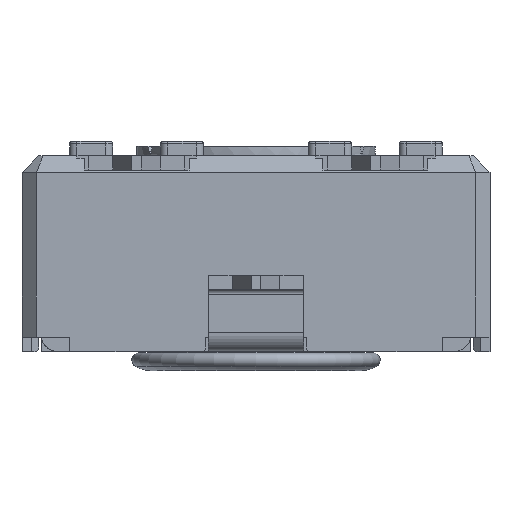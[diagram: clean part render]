
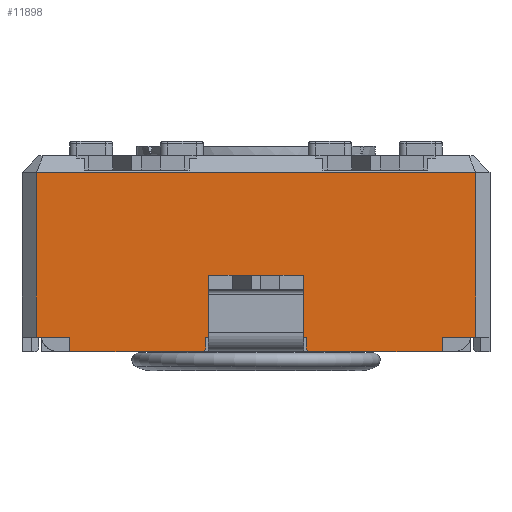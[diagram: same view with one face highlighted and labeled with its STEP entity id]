
A CAD part, front view. The second image highlights one B-rep face of the part: STEP entity #11898.
In plain terms, the highlighted planar face has unit normal (0, -1, 0).
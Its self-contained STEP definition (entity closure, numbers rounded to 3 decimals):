
#690=PLANE('',#12786);
#1293=FACE_OUTER_BOUND('',#1923,.T.);
#1923=EDGE_LOOP('',(#11066,#11067,#11068,#11069,#11070,#11071,#11072,#11073,
#11074,#11075,#11076,#11077,#11078,#11079,#11080,#11081));
#2012=LINE('',#16264,#3400);
#2616=LINE('',#17717,#4004);
#2622=LINE('',#17729,#4010);
#2630=LINE('',#17745,#4018);
#2636=LINE('',#17756,#4024);
#2800=LINE('',#18275,#4188);
#2806=LINE('',#18285,#4194);
#2809=LINE('',#18292,#4197);
#2822=LINE('',#18317,#4210);
#2878=LINE('',#18425,#4266);
#2880=LINE('',#18430,#4268);
#2882=LINE('',#18433,#4270);
#2884=LINE('',#18438,#4272);
#3066=LINE('',#18877,#4454);
#3309=LINE('',#19438,#4697);
#3311=LINE('',#19445,#4699);
#3400=VECTOR('',#13009,10.);
#4004=VECTOR('',#14291,10.);
#4010=VECTOR('',#14297,10.);
#4018=VECTOR('',#14307,10.);
#4024=VECTOR('',#14313,10.);
#4188=VECTOR('',#14783,10.);
#4194=VECTOR('',#14791,10.);
#4197=VECTOR('',#14798,10.);
#4210=VECTOR('',#14819,10.);
#4266=VECTOR('',#14919,10.);
#4268=VECTOR('',#14927,10.);
#4270=VECTOR('',#14931,10.);
#4272=VECTOR('',#14939,10.);
#4454=VECTOR('',#15357,10.);
#4697=VECTOR('',#15896,10.);
#4699=VECTOR('',#15908,10.);
#5004=VERTEX_POINT('',#16205);
#5017=VERTEX_POINT('',#16233);
#5531=VERTEX_POINT('',#17716);
#5536=VERTEX_POINT('',#17726);
#5537=VERTEX_POINT('',#17728);
#5543=VERTEX_POINT('',#17742);
#5544=VERTEX_POINT('',#17744);
#5549=VERTEX_POINT('',#17754);
#5696=VERTEX_POINT('',#18273);
#5697=VERTEX_POINT('',#18274);
#5700=VERTEX_POINT('',#18283);
#5701=VERTEX_POINT('',#18290);
#5702=VERTEX_POINT('',#18291);
#5710=VERTEX_POINT('',#18316);
#5854=VERTEX_POINT('',#18874);
#5855=VERTEX_POINT('',#18876);
#6138=EDGE_CURVE('',#5004,#5017,#2012,.T.);
#6868=EDGE_CURVE('',#5531,#5004,#2616,.T.);
#6874=EDGE_CURVE('',#5537,#5536,#2622,.T.);
#6882=EDGE_CURVE('',#5544,#5543,#2630,.T.);
#6888=EDGE_CURVE('',#5017,#5549,#2636,.T.);
#7129=EDGE_CURVE('',#5696,#5697,#2800,.T.);
#7135=EDGE_CURVE('',#5696,#5700,#2806,.T.);
#7138=EDGE_CURVE('',#5701,#5702,#2809,.T.);
#7151=EDGE_CURVE('',#5710,#5702,#2822,.T.);
#7207=EDGE_CURVE('',#5531,#5701,#2878,.T.);
#7209=EDGE_CURVE('',#5536,#5710,#2880,.T.);
#7211=EDGE_CURVE('',#5544,#5700,#2882,.T.);
#7213=EDGE_CURVE('',#5549,#5697,#2884,.T.);
#7428=EDGE_CURVE('',#5854,#5855,#3066,.T.);
#7707=EDGE_CURVE('',#5855,#5543,#3309,.T.);
#7709=EDGE_CURVE('',#5854,#5537,#3311,.T.);
#11066=ORIENTED_EDGE('',*,*,#7129,.F.);
#11067=ORIENTED_EDGE('',*,*,#7135,.T.);
#11068=ORIENTED_EDGE('',*,*,#7211,.F.);
#11069=ORIENTED_EDGE('',*,*,#6882,.T.);
#11070=ORIENTED_EDGE('',*,*,#7707,.F.);
#11071=ORIENTED_EDGE('',*,*,#7428,.F.);
#11072=ORIENTED_EDGE('',*,*,#7709,.T.);
#11073=ORIENTED_EDGE('',*,*,#6874,.T.);
#11074=ORIENTED_EDGE('',*,*,#7209,.T.);
#11075=ORIENTED_EDGE('',*,*,#7151,.T.);
#11076=ORIENTED_EDGE('',*,*,#7138,.F.);
#11077=ORIENTED_EDGE('',*,*,#7207,.F.);
#11078=ORIENTED_EDGE('',*,*,#6868,.T.);
#11079=ORIENTED_EDGE('',*,*,#6138,.T.);
#11080=ORIENTED_EDGE('',*,*,#6888,.T.);
#11081=ORIENTED_EDGE('',*,*,#7213,.T.);
#11898=ADVANCED_FACE('',(#1293),#690,.T.);
#12786=AXIS2_PLACEMENT_3D('',#19446,#15909,#15910);
#13009=DIRECTION('',(1.,0.,0.));
#14291=DIRECTION('',(1.,0.,0.));
#14297=DIRECTION('',(1.,0.,0.));
#14307=DIRECTION('',(1.,0.,0.));
#14313=DIRECTION('',(1.,0.,0.));
#14783=DIRECTION('',(-0.707,0.,0.707));
#14791=DIRECTION('',(1.,0.,0.));
#14798=DIRECTION('',(-0.707,0.,-0.707));
#14819=DIRECTION('',(1.,0.,0.));
#14919=DIRECTION('',(0.,0.,-1.));
#14927=DIRECTION('',(0.,0.,-1.));
#14931=DIRECTION('',(0.,0.,-1.));
#14939=DIRECTION('',(0.,0.,-1.));
#15357=DIRECTION('',(1.,0.,0.));
#15896=DIRECTION('',(0.,0.,-1.));
#15908=DIRECTION('',(0.,0.,-1.));
#15909=DIRECTION('center_axis',(0.,-1.,0.));
#15910=DIRECTION('ref_axis',(0.,0.,-1.));
#16205=CARTESIAN_POINT('',(-27.448,-17.99,-3.8));
#16233=CARTESIAN_POINT('',(-25.448,-17.99,-3.8));
#16264=CARTESIAN_POINT('',(-21.848,-17.99,-3.8));
#17716=CARTESIAN_POINT('',(-27.498,-17.99,-3.8));
#17717=CARTESIAN_POINT('',(-21.848,-17.99,-3.8));
#17726=CARTESIAN_POINT('',(-30.348,-17.99,-3.8));
#17728=CARTESIAN_POINT('',(-31.048,-17.99,-3.8));
#17729=CARTESIAN_POINT('',(-21.848,-17.99,-3.8));
#17742=CARTESIAN_POINT('',(-21.848,-17.99,-3.8));
#17744=CARTESIAN_POINT('',(-22.548,-17.99,-3.8));
#17745=CARTESIAN_POINT('',(-21.848,-17.99,-3.8));
#17754=CARTESIAN_POINT('',(-25.398,-17.99,-3.8));
#17756=CARTESIAN_POINT('',(-21.848,-17.99,-3.8));
#18273=CARTESIAN_POINT('',(-25.348,-17.99,-4.1));
#18274=CARTESIAN_POINT('',(-25.398,-17.99,-4.05));
#18275=CARTESIAN_POINT('',(-27.81,-17.99,-1.637));
#18283=CARTESIAN_POINT('',(-22.548,-17.99,-4.1));
#18285=CARTESIAN_POINT('',(-21.848,-17.99,-4.1));
#18290=CARTESIAN_POINT('',(-27.498,-17.99,-4.05));
#18291=CARTESIAN_POINT('',(-27.548,-17.99,-4.1));
#18292=CARTESIAN_POINT('',(-27.385,-17.99,-3.938));
#18316=CARTESIAN_POINT('',(-30.348,-17.99,-4.1));
#18317=CARTESIAN_POINT('',(-21.848,-17.99,-4.1));
#18425=CARTESIAN_POINT('',(-27.498,-17.99,-3.8));
#18430=CARTESIAN_POINT('',(-30.348,-17.99,-3.8));
#18433=CARTESIAN_POINT('',(-22.548,-17.99,-3.8));
#18438=CARTESIAN_POINT('',(-25.398,-17.99,-3.8));
#18874=CARTESIAN_POINT('',(-31.048,-17.99,-0.35));
#18876=CARTESIAN_POINT('',(-21.848,-17.99,-0.35));
#18877=CARTESIAN_POINT('',(-28.748,-17.99,-0.35));
#19438=CARTESIAN_POINT('',(-21.848,-17.99,0.));
#19445=CARTESIAN_POINT('',(-31.048,-17.99,0.));
#19446=CARTESIAN_POINT('Origin',(-31.048,-17.99,0.));
